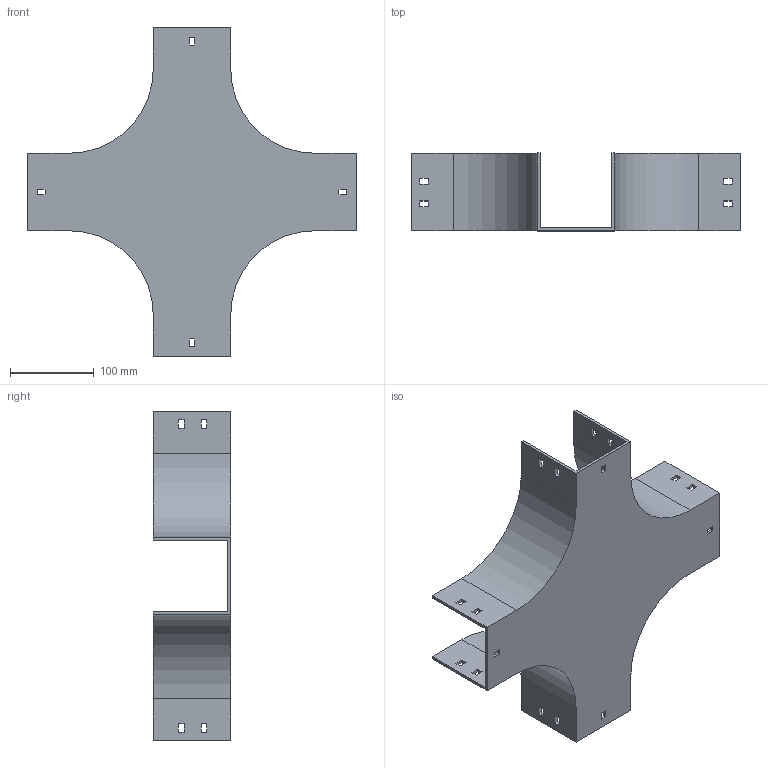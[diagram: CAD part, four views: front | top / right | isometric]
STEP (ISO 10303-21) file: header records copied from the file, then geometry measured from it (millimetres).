
FILE_DESCRIPTION (( 'STEP AP214' ), '1' );
FILE_NAME ('17B1I092.step', '2025-02-21T09:58:33', ( '' ), ( '' ), 'SwSTEP 2.0', 'SolidWorks 2023', '' );
FILE_SCHEMA (( 'AUTOMOTIVE_DESIGN' ));
Length unit declared in the file: millimetre
Products named in the file (1): 17B1I092
Bounding box: 392.5 x 92.5 x 392.5 mm (x, y, z)
Volume: 573248.5 mm3; surface area: 337294.7 mm2
Topology: 1 solids, 1 shells, 114 faces, 336 edges, 224 vertices
Faces by surface type: plane 106, cylinder 8
Entity records: 3839 total; most frequent: CARTESIAN_POINT 675, ORIENTED_EDGE 672, DIRECTION 582, EDGE_CURVE 336, LINE 320, VECTOR 320, VERTEX_POINT 224, EDGE_LOOP 154
